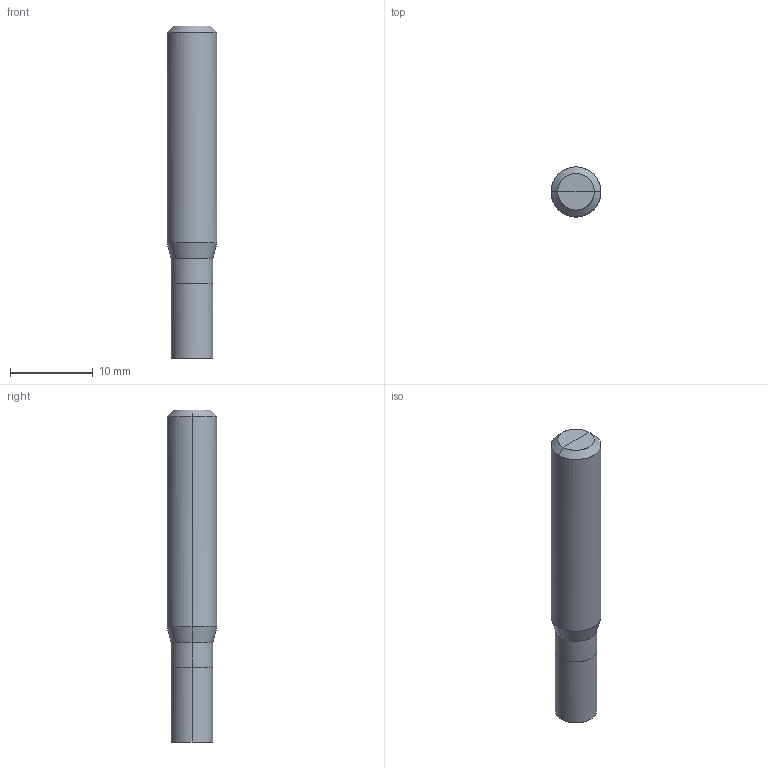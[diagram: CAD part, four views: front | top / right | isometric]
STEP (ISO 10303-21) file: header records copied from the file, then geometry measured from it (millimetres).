
FILE_DESCRIPTION(/* description */ (''),/* implementation_level */ '2;1');
FILE_NAME(/*name*/ '5031-5F',/*time_stamp*/'2021-4-28T10:34:1',/*author*/ ('ISBE GmbH'),/*organization*/ ('ISBE GmbH'),/*preprocessor_version*/ 'STEP IO v1.0',/*originating_system*/ '',/*authorisation*/ '');
FILE_SCHEMA (('AUTOMOTIVE_DESIGN'));
Length unit declared in the file: millimetre
Products named in the file (1): Document
Bounding box: 6 x 5.99 x 40 mm (x, y, z)
Surface area: 793.1 mm2 (no closed solid volume)
Topology: 0 solids, 18 shells, 18 faces, 77 edges, 74 vertices
Faces by surface type: bspline 18
Entity records: 1209 total; most frequent: CARTESIAN_POINT 872, VERTEX_POINT 64, EDGE_CURVE 64, ORIENTED_EDGE 64, EDGE_LOOP 18, FACE_OUTER_BOUND 18, ADVANCED_FACE 18, DIRECTION 16
